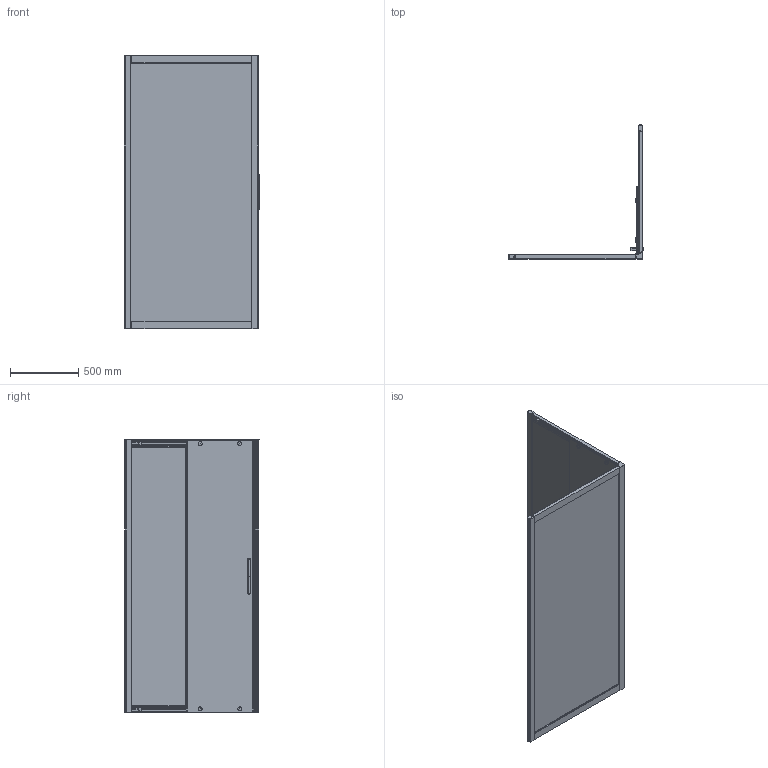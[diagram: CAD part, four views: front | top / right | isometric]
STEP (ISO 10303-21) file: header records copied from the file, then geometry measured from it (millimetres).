
FILE_DESCRIPTION(/* description */ (''),/* implementation_level */ '2;1');
FILE_NAME(/* name */ 'D:\Работа\Сергей\! Готово\Документация и модели всех серий\KUBELE динамические модели и набор документов\19 NEW\KÜBELE DE019S\KÜBELE DE019S-3D.stp',/* time_stamp */ '2019-06-16T15:30:16+03:00',/* author */ ('User'),/* organization */ (''),/* preprocessor_version */ 'ST-DEVELOPER v15.2',/* originating_system */ 'Autodesk Inventor 2014',/* authorisation */ '');
FILE_SCHEMA (('CONFIG_CONTROL_DESIGN'));
Products named in the file (1): KÜBELE DE019S-3D
Bounding box: 989.12 x 982.7 x 2002.5 mm (x, y, z)
Volume: 35178617.4 mm3; surface area: 9233882.3 mm2
Topology: 1 solids, 15 shells, 1919 faces, 5335 edges, 3408 vertices
Faces by surface type: plane 980, cylinder 603, bspline 137, torus 99, sphere 52, cone 48
Full cylindrical faces by diameter (mm): 3 x2, 3.7 x24, 8.4 x4, 9.5 x8, 10 x2, 13.2 x4, 14 x8, 16.5 x8, 18 x8, 19 x12, 22 x4, 28.7 x4, 30 x6
Entity records: 72464 total; most frequent: CARTESIAN_POINT 21833, ORIENTED_EDGE 10324, DIRECTION 9953, EDGE_CURVE 5144, AXIS2_PLACEMENT_3D 3374, VERTEX_POINT 3348, LINE 3205, VECTOR 3205
